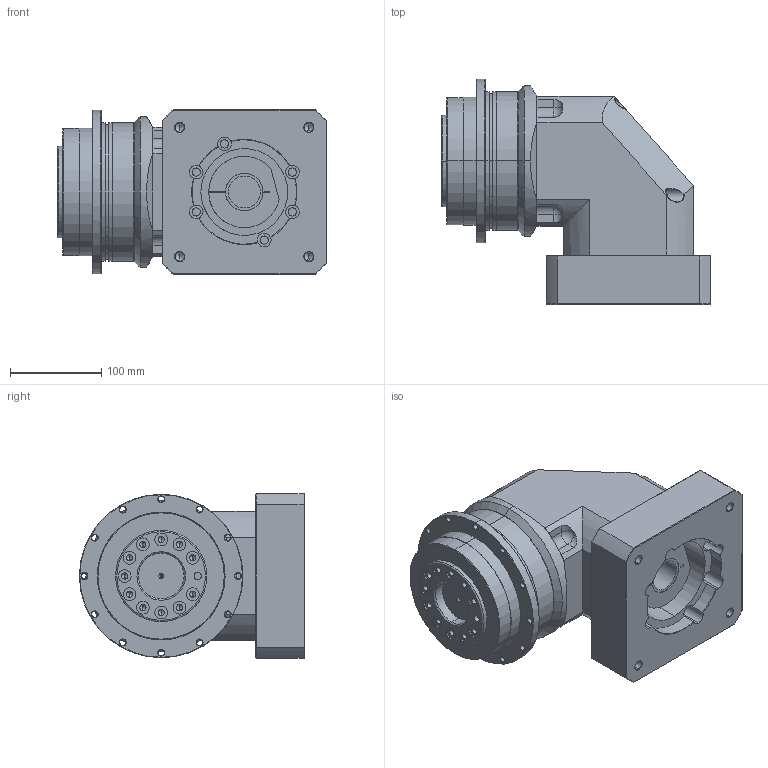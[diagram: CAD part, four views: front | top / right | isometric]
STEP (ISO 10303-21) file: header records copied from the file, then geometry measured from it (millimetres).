
FILE_DESCRIPTION (( 'STEP AP203' ), '1' );
FILE_NAME ('TDR140-L1-35-114.3-200-M12-97-15.STEP', '2021-04-08T04:47:52', ( '' ), ( '' ), 'SwSTEP 2.0', 'SolidWorks 2017', '' );
FILE_SCHEMA (( 'CONFIG_CONTROL_DESIGN' ));
Length unit declared in the file: millimetre
Products named in the file (1): TDR140-L1-35-114.3-200-M12-97-15
Bounding box: 294.5 x 246.5 x 180 mm (x, y, z)
Volume: 6265451.3 mm3; surface area: 401310.3 mm2
Topology: 4 solids, 5 shells, 475 faces, 1133 edges, 683 vertices
Faces by surface type: cylinder 204, cone 139, plane 110, bspline 16, torus 6
Entity records: 15394 total; most frequent: CARTESIAN_POINT 4363, DIRECTION 2398, ORIENTED_EDGE 2202, EDGE_CURVE 1101, AXIS2_PLACEMENT_3D 978, VERTEX_POINT 683, EDGE_LOOP 574, CIRCLE 518
